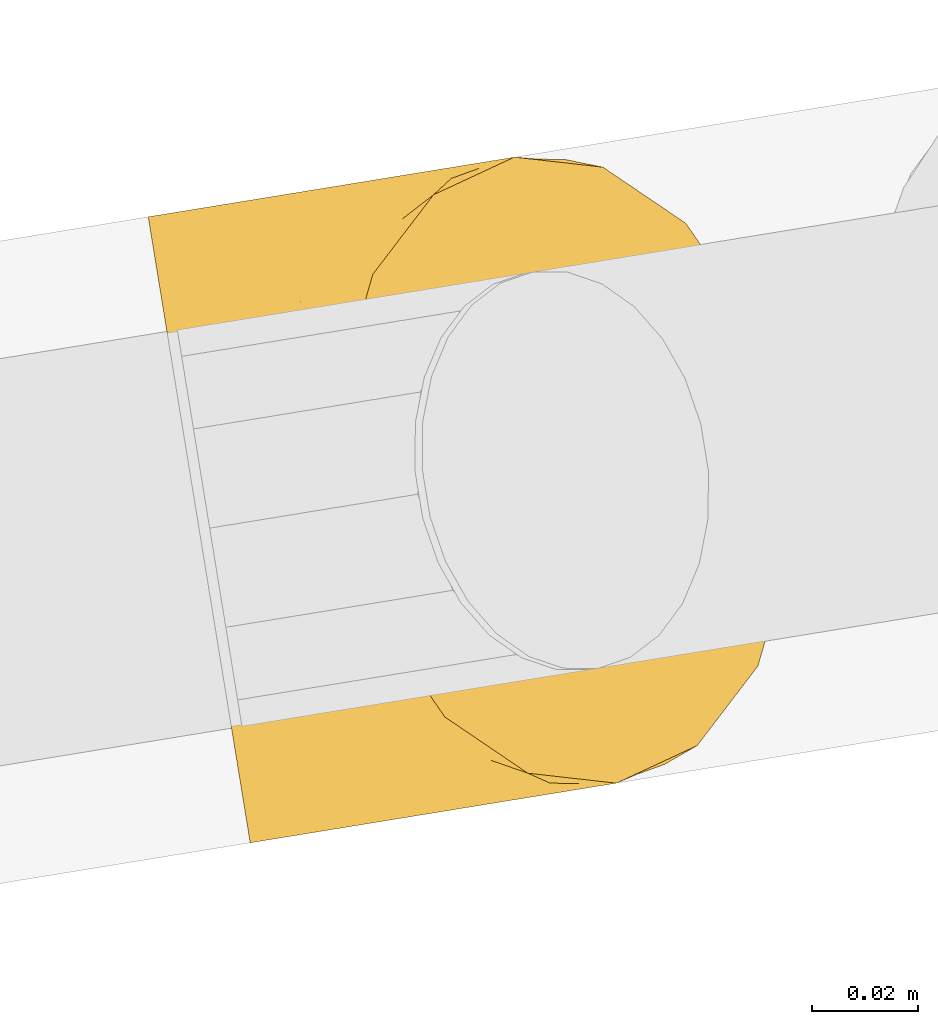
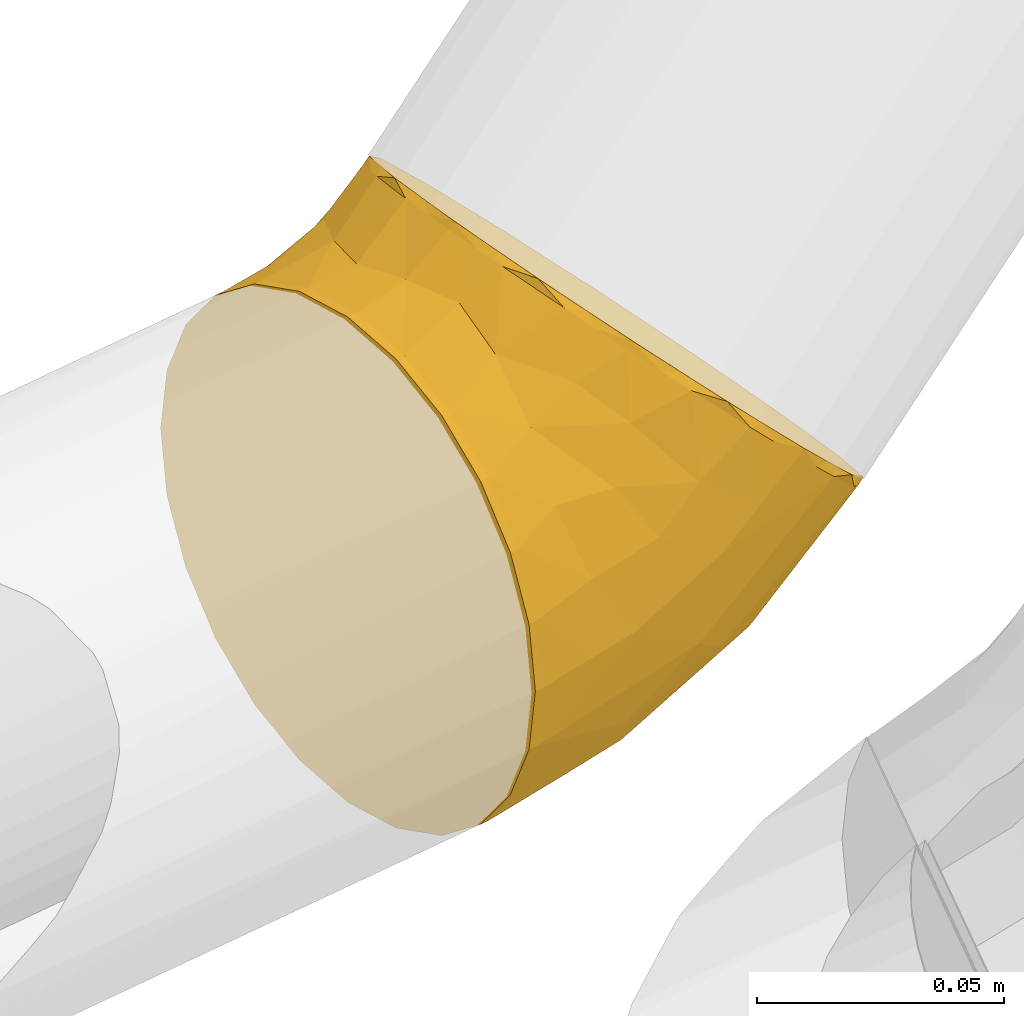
# One storey, part 11 of 56: 1 covering.
"""IFC2X3 building model written with IfcOpenShell, lengths in millimetres."""

from ifc_helpers import new_model, entity, si_unit, converted_unit, derived_unit, direction, frame, origin, origin_with_axes, place, context, subcontext, project, spatial, faceted_brep, material, type_object, element, save


model = new_model("IFC2X3")

# Units and contexts
model_context = context("Model", 3, precision=0.01, world=origin(), true_north=direction((6.12323399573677e-17, 1.0)))
plan_context = context("Plan", 3, precision=1e-05, world=origin_with_axes())
body_context = subcontext(model_context, "Body", "Model", "MODEL_VIEW")
ifc_project = project(units=[converted_unit("PLANEANGLEUNIT", "DEGREE", entity("IfcPositiveLengthMeasure", 0.0174532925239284), si_unit("PLANEANGLEUNIT", "RADIAN"), dimensions=[0, 0, 0, 0, 0, 0, 0]), si_unit("AREAUNIT", "SQUARE_METRE"), si_unit("LENGTHUNIT", "METRE", prefix="MILLI"), si_unit("MASSUNIT", "GRAM", prefix="KILO"), si_unit("POWERUNIT", "WATT"), si_unit("PRESSUREUNIT", "PASCAL", prefix="KILO"), si_unit("FORCEUNIT", "NEWTON", prefix="KILO"), si_unit("ELECTRICVOLTAGEUNIT", "VOLT"), si_unit("ELECTRICCURRENTUNIT", "AMPERE"), si_unit("THERMODYNAMICTEMPERATUREUNIT", "DEGREE_CELSIUS"), si_unit("TIMEUNIT", "SECOND"), si_unit("VOLUMEUNIT", "CUBIC_METRE"), derived_unit("LINEARVELOCITYUNIT", [(si_unit("LENGTHUNIT", "METRE"), 1), (si_unit("TIMEUNIT", "SECOND"), -1)]), derived_unit("VOLUMETRICFLOWRATEUNIT", [(si_unit("VOLUMEUNIT", "CUBIC_METRE"), 1), (si_unit("TIMEUNIT", "SECOND"), -1)]), derived_unit("THERMALTRANSMITTANCEUNIT", [(si_unit("POWERUNIT", "WATT"), 1), (si_unit("THERMODYNAMICTEMPERATUREUNIT", "KELVIN"), -1), (si_unit("AREAUNIT", "SQUARE_METRE"), -1)]), derived_unit("SOUNDPRESSUREUNIT", [(si_unit("PRESSUREUNIT", "PASCAL"), 1)])], contexts=[model_context, plan_context])

# Site, building, storey
site_placement = place(None, frame((-3.09682673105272e-06, 1.93776733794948e-05, 0.0), z_axis=(0.0, 0.0, 1.0), x_axis=(-0.160806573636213, 0.986985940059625, 0.0)))
site = spatial("IfcSite", under=ifc_project, at=site_placement, Name="Default", CompositionType="ELEMENT")
building_placement = place(site_placement, frame((0.0, 0.0, 0.0), z_axis=(0.0, 0.0, 1.0), x_axis=(1.0, -2.77555756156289e-17, 0.0)))
building = spatial("IfcBuilding", under=site, at=building_placement, Name="Bygning (endres i Project Information)", CompositionType="ELEMENT")
storey_placement = place(building_placement, frame((0.0, 0.0, 51360.0000000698), z_axis=(0.0, 0.0, 1.0), x_axis=(1.0, -2.77555756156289e-17, 0.0)))
storey = spatial("IfcBuildingStorey", under=building, at=storey_placement, Name="H01-Nivå D+0,36", CompositionType="ELEMENT", Elevation=51360.0000000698)

# Covering
ifc_material = material(Name="3700.001 Tur")
covering_type = type_object("IfcCoveringType", Name="Pipe Insulation:GLAVA avløpsisol. slange økende 19mm (15,5-25,0)", PredefinedType="INSULATION")
covering_placement = place(storey_placement, frame((1011826.7223707, -394773.965391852, 3513.15039411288), z_axis=(0.0, 0.0, 1.0), x_axis=(1.0, -2.77555756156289e-17, 0.0)))
element("IfcCovering", 1, at=covering_placement, inside=storey, type_object=covering_type, material=ifc_material, Name="Pipe Insulation:GLAVA avløpsisol. slange økende 19mm (15,5-25,0)", ObjectType="Pipe Insulation:GLAVA avløpsisol. slange økende 19mm (15,5-25,0)", PredefinedType="INSULATION", context=body_context, shape_type="Brep", body=[
    faceted_brep([(38.6651321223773, 83.2865874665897, -4.82748142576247), (28.9243210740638, 78.6843109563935, -9.42975793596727), (19.1835100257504, 74.0820344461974, -14.0320344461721), (12.6749081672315, 67.1942408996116, -20.9198279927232), (6.16630630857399, 60.3064473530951, -27.8076215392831), (3.88078927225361, 52.1817408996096, -35.9323279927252), (1.59527223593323, 44.0570344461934, -44.0570344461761), (3.88078927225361, 35.9323279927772, -52.1817408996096), (6.16630630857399, 27.8076215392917, -60.3064473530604), (12.6749081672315, 20.9198279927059, -67.1942408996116), (19.1835100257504, 14.0320344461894, -74.0820344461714), (28.9243210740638, 9.42975793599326, -78.6843109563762), (38.6651321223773, 4.82748142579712, -83.2865874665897), (50.15520217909, 3.21137683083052, -84.9026920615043), (61.6452722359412, 1.59527223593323, -86.5187966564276), (73.1353422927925, 3.21137683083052, -84.9026920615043), (84.6254123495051, 4.82748142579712, -83.2865874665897), (94.3662233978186, 9.42975793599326, -78.6843109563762), (104.107034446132, 14.0320344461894, -74.0820344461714), (110.615636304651, 20.9198279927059, -67.1942408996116), (117.124238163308, 27.8076215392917, -60.3064473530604), (119.409755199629, 35.9323279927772, -52.1817408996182), (121.695272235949, 44.0570344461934, -44.0570344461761), (119.409755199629, 52.1817408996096, -35.9323279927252), (117.124238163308, 60.3064473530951, -27.8076215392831), (110.615636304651, 67.1942408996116, -20.9198279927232), (104.107034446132, 74.0820344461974, -14.0320344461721), (94.3662233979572, 78.6843109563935, -9.42975793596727), (84.6254123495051, 83.2865874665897, -4.82748142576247), (73.1353422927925, 84.902692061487, -3.21137683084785), (61.6452722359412, 86.5187966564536, -1.5952722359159), (50.15520217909, 84.902692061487, -3.21137683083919), (84.4288140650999, 114.292838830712, -128.153992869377), (77.1873558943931, 114.292838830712, -131.153503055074), (70.0046048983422, 114.292838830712, -132.099130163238), (61.6452722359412, 114.292838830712, -133.199657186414), (53.8742304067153, 114.292838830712, -132.176580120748), (46.1031885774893, 114.292838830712, -131.153503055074), (38.8617304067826, 114.292838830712, -128.153992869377), (31.6202722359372, 114.292838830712, -125.154482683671), (25.4018911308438, 114.292838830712, -120.382951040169), (19.1835100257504, 114.292838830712, -115.611419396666), (14.4119783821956, 114.292838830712, -109.393038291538), (9.64044673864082, 114.292838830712, -103.174657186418), (6.64093655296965, 114.292838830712, -95.9331990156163), (3.64142636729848, 114.292838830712, -88.6917408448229), (2.69579925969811, 114.292838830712, -81.5089898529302), (1.59527223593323, 114.292838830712, -73.1496571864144), (2.61834930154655, 114.292838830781, -65.3786153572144), (3.64142636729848, 114.292838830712, -57.6075735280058), (6.64093655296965, 114.292838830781, -50.3661153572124), (9.64044673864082, 114.292838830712, -43.124657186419), (14.4119783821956, 114.292838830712, -36.9062760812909), (19.1835100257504, 114.292838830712, -30.6878949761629), (25.4018911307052, 114.292838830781, -25.9163633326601), (31.6202722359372, 114.292838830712, -21.1448316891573), (38.8617304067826, 114.292838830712, -18.1453215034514), (46.1031885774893, 114.292838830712, -15.1458113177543), (53.2859395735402, 114.292838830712, -14.2001842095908), (61.6452722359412, 114.292838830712, -13.099657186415), (69.4163140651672, 114.292838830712, -14.1227342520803), (77.1873558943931, 114.292838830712, -15.1458113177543), (84.4288140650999, 114.292838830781, -18.1453215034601), (91.6702722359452, 114.292838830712, -21.1448316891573), (97.8886533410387, 114.292838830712, -25.9163633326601), (104.107034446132, 114.292838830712, -30.6878949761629), (108.878566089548, 114.292838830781, -36.9062760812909), (113.650097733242, 114.292838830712, -43.1246571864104), (116.649607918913, 114.292838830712, -50.3661153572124), (119.649118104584, 114.292838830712, -57.6075735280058), (120.594745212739, 114.292838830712, -64.7903245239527), (121.695272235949, 114.292838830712, -73.1496571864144), (120.672195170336, 114.292838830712, -80.9206990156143), (119.649118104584, 114.292838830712, -88.6917408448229), (116.649607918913, 114.292838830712, -95.9331990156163), (113.650097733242, 114.292838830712, -103.174657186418), (108.878566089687, 114.292838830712, -109.393038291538), (104.107034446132, 114.292838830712, -115.611419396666), (97.8886533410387, 114.292838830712, -120.382951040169), (91.6702722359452, 114.292838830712, -125.154482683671), (46.1031885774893, 112.292838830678, -131.153503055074), (61.6452722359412, 112.292838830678, -133.199657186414), (53.2859395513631, 112.292838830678, -132.099130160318), (31.6202722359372, 112.292838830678, -125.154482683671), (38.8617304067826, 112.292838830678, -128.153992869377), (25.4018911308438, 112.292838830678, -120.382951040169), (19.1835100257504, 112.292838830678, -115.611419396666), (9.64044673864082, 112.292838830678, -103.174657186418), (14.4119783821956, 112.292838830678, -109.393038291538), (3.64142636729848, 112.292838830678, -88.6917408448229), (6.64093655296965, 112.292838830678, -95.9331990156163), (2.61834930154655, 112.292838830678, -80.9206990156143), (1.59527223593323, 112.292838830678, -73.1496571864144), (3.64142636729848, 112.292838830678, -57.6075735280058), (2.69579925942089, 112.292838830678, -64.790324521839), (9.64044673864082, 112.292838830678, -43.1246571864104), (6.64093655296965, 112.292838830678, -50.3661153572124), (14.4119783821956, 112.292838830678, -36.9062760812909), (19.1835100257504, 112.292838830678, -30.6878949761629), (31.6202722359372, 112.292838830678, -21.1448316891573), (25.4018911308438, 112.292838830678, -25.9163633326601), (46.1031885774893, 112.292838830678, -15.1458113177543), (38.8617304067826, 112.292838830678, -18.1453215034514), (53.8742304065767, 112.292838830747, -14.122734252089), (61.6452722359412, 112.292838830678, -13.099657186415), (77.1873558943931, 112.292838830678, -15.1458113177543), (70.0046048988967, 112.292838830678, -14.2001842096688), (91.6702722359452, 112.292838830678, -21.1448316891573), (84.4288140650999, 112.292838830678, -18.1453215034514), (97.8886533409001, 112.292838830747, -25.9163633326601), (104.107034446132, 112.292838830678, -30.6878949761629), (113.650097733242, 112.292838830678, -43.1246571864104), (108.878566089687, 112.292838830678, -36.9062760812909), (119.649118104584, 112.292838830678, -57.6075735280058), (116.649607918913, 112.292838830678, -50.3661153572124), (120.672195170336, 112.292838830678, -65.3786153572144), (121.695272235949, 112.292838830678, -73.1496571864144), (119.649118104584, 112.292838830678, -88.6917408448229), (120.594745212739, 112.292838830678, -81.5089898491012), (113.650097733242, 112.292838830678, -103.174657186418), (116.649607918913, 112.292838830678, -95.9331990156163), (108.878566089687, 112.292838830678, -109.393038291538), (104.107034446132, 112.292838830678, -115.611419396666), (91.6702722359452, 112.292838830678, -125.154482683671), (97.8886533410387, 112.292838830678, -120.382951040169), (77.1873558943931, 112.292838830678, -131.153503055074), (84.4288140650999, 112.292838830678, -128.153992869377), (69.4163140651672, 112.292838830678, -132.176580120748), (50.664647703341, 85.5475609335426, -129.839799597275), (39.5950181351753, 76.4597781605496, -124.672390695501), (61.6452722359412, 72.2923554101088, -127.933493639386), (25.9108698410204, 87.1245465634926, -119.173874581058), (26.9386521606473, 57.3759997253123, -111.230641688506), (25.9108693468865, 30.7238840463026, -95.8119553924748), (31.6202722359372, 8.69828324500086, -82.2442127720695), (25.4018911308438, 12.0722656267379, -78.8702303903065), (19.1835100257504, 15.4462480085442, -75.4962480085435), (61.6452722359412, 35.0178388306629, -112.493883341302), (50.6646483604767, 24.2970327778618, -104.469000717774), (49.9807930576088, 53.5868241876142, -120.37852270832), (1.59527223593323, 65.0428388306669, -60.4890578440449), (4.46183562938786, 69.1139559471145, -82.8927031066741), (3.64142636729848, 34.4813352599, -56.4611607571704), (1.59527223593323, 87.8344390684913, -69.9296477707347), (1.59527223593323, 99.4313806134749, -71.4564140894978), (15.0655051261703, 80.7941069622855, -107.247101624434), (8.00076731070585, 85.2729382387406, -97.0932618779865), (9.04079400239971, 59.6499882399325, -90.3254583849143), (9.64044673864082, 24.2403669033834, -66.7021291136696), (6.64093655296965, 29.3608510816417, -61.58164493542), (46.1031885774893, 4.45633525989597, -86.4861607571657), (39.5950159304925, 34.3769800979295, -107.241125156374), (15.2098345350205, 47.1520218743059, -94.1181301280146), (14.4119783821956, 19.8433074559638, -71.0991885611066), (61.6452722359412, 3.00948579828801, -87.933010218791), (53.8742304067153, 3.73291052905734, -87.209585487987), (1.59527223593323, 55.762976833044, -53.3683692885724), (2.61834930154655, 39.9762916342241, -50.9662043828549), (1.59527223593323, 45.4712480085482, -45.4712480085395), (1.59527223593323, 76.4386389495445, -65.2093528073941), (38.8617304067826, 6.57730925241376, -84.3651867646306), (3.54813655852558, 80.2897842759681, -51.2164323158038), (4.16459638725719, 97.4249525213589, -54.3255432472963), (11.7283730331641, 100.885054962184, -38.6943743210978), (13.156433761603, 79.9940329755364, -28.1148182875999), (22.1682347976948, 98.6848226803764, -25.9823157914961), (9.27971318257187, 87.3768363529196, -38.8022194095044), (4.16459674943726, 69.2950936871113, -42.6737737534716), (35.8329738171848, 96.8780673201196, -15.8642126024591), (61.6452722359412, 99.109394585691, -10.4773070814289), (22.6361433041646, 86.7574756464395, -20.2894712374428), (3.64142636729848, 56.4611607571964, -34.4813352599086), (6.64093655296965, 61.5816449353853, -29.3608510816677), (9.64044673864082, 66.7021291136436, -24.2403669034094), (31.6202722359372, 82.2442127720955, -8.69828324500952), (48.4139431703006, 95.9077321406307, -10.6214088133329), (61.6452722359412, 87.9330102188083, -3.00948579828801), (38.8617304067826, 84.3651867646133, -6.57730925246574), (46.1031885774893, 86.4861607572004, -4.45633525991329), (53.8742304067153, 87.2095854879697, -3.73291052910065), (19.1835100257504, 75.4962480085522, -15.4462480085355), (25.4018911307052, 78.8702303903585, -12.0722656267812), (14.4119783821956, 71.0991885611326, -19.8433074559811), (2.61834930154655, 50.966204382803, -39.9762916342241), (100.654400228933, 100.905278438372, -26.1496811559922), (87.4575706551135, 96.8780673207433, -15.8642126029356), (101.122308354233, 88.4459215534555, -21.7412236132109), (91.6702722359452, 82.2442127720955, -8.69828324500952), (97.8886533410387, 78.8702303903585, -12.0722656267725), (104.107034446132, 75.4962480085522, -15.4462480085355), (74.8766016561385, 101.271417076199, -12.8431198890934), (119.74240796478, 83.609961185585, -52.59169472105), (121.695272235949, 87.8344390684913, -69.9296477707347), (119.125948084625, 97.4249525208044, -54.3255432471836), (110.134108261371, 100.154400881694, -36.4655109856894), (121.695272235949, 99.4313806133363, -71.4564140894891), (114.01083159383, 87.376834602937, -38.8022192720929), (121.695272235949, 55.7629768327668, -53.3683692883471), (119.649118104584, 56.4611607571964, -34.4813352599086), (120.672195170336, 50.966204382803, -39.9762916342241), (121.695272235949, 45.4712480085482, -45.4712480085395), (111.562170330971, 77.9013394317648, -29.1742072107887), (119.125947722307, 69.2950936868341, -42.6737737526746), (69.4163140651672, 87.2095854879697, -3.73291052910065), (77.1873558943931, 86.4861607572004, -4.45633525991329), (113.650097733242, 66.7021291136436, -24.2403669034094), (116.649607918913, 61.5816449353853, -29.3608510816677), (84.4288140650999, 84.3651867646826, -6.57730925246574), (108.878566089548, 71.0991885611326, -19.8433074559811), (121.695272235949, 65.0428388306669, -60.4890578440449), (121.695272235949, 76.4386389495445, -65.2093528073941), (118.828708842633, 69.1139559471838, -82.8927031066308), (83.6955263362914, 76.4597781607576, -124.672390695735), (97.3796746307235, 87.124546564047, -119.173874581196), (96.3518923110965, 57.3759997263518, -111.230641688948), (83.6955285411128, 34.3769801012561, -107.241125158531), (91.6702722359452, 8.69828324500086, -82.2442127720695), (84.4288140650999, 6.57730925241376, -84.3651867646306), (77.1873558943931, 4.45633525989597, -86.4861607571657), (108.080710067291, 76.7058127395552, -106.35971085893), (72.6258967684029, 85.547560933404, -129.839799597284), (73.3097514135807, 53.586824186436, -120.378522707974), (108.225039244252, 43.6336813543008, -91.8547496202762), (97.3796751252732, 30.7238840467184, -95.8119553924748), (119.649118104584, 34.4813352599, -56.4611607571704), (120.672195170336, 39.9762916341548, -50.9662043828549), (114.249750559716, 70.550239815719, -94.8404902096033), (72.6258961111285, 24.297032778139, -104.469000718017), (104.107034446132, 15.4462480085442, -75.4962480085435), (113.650097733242, 24.2403669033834, -66.7021291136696), (108.878566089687, 19.8433074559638, -71.0991885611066), (97.8886533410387, 12.0722656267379, -78.8702303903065), (115.289777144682, 47.6465184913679, -81.5078887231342), (116.649607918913, 29.3608510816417, -61.58164493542), (69.4163140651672, 3.73291052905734, -87.209585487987)], [[[0, 1, 2, 3, 4, 5, 6, 7, 8, 9, 10, 11, 12, 13, 14, 15, 16, 17, 18, 19, 20, 21, 22, 23, 24, 25, 26, 27, 28, 29, 30, 31]], [[32, 33, 34, 35, 36, 37, 38, 39, 40, 41, 42, 43, 44, 45, 46, 47, 48, 49, 50, 51, 52, 53, 54, 55, 56, 57, 58, 59, 60, 61, 62, 63, 64, 65, 66, 67, 68, 69, 70, 71, 72, 73, 74, 75, 76, 77, 78, 79]], [[80, 37, 36, 35, 81, 82]], [[83, 39, 38, 37, 80, 84]], [[40, 39, 83, 85, 86, 41]], [[87, 43, 42, 41, 86, 88]], [[89, 45, 44, 43, 87, 90]], [[46, 45, 89, 91, 92, 47]], [[93, 49, 48, 47, 92, 94]], [[95, 51, 50, 49, 93, 96]], [[52, 51, 95, 97, 98, 53]], [[99, 55, 54, 53, 98, 100]], [[101, 57, 56, 55, 99, 102]], [[58, 57, 101, 103, 104, 59]], [[105, 61, 60, 59, 104, 106]], [[107, 63, 62, 61, 105, 108]], [[64, 63, 107, 109, 110, 65]], [[111, 67, 66, 65, 110, 112]], [[113, 69, 68, 67, 111, 114]], [[70, 69, 113, 115, 116, 71]], [[117, 73, 72, 71, 116, 118]], [[119, 75, 74, 73, 117, 120]], [[76, 75, 119, 121, 122, 77]], [[123, 79, 78, 77, 122, 124]], [[125, 33, 32, 79, 123, 126]], [[34, 33, 125, 127, 81, 35]], [[80, 128, 129]], [[81, 130, 128]], [[131, 86, 85, 83]], [[129, 132, 131]], [[133, 134, 135, 136]], [[137, 138, 139]], [[139, 130, 137]], [[140, 141, 142]], [[89, 143, 144, 92, 91]], [[143, 89, 141]], [[129, 83, 84, 80]], [[145, 146, 87]], [[145, 87, 88, 86]], [[147, 148, 149, 142]], [[150, 151, 138]], [[132, 129, 151]], [[152, 136, 153, 148]], [[134, 133, 151]], [[151, 129, 139]], [[138, 154, 155, 150]], [[132, 152, 145]], [[151, 133, 132]], [[146, 89, 90, 87]], [[156, 140, 142, 157, 158]], [[141, 140, 159, 143]], [[142, 141, 147]], [[145, 131, 132]], [[129, 131, 83]], [[133, 152, 132]], [[146, 147, 141]], [[152, 133, 136]], [[151, 150, 160, 134]], [[128, 139, 129]], [[145, 86, 131]], [[147, 145, 152]], [[89, 146, 141]], [[145, 147, 146]], [[148, 147, 152]], [[128, 80, 82, 81]], [[139, 128, 130]], [[139, 138, 151]], [[154, 138, 137]], [[143, 161, 162]], [[143, 162, 144]], [[163, 98, 97, 95]], [[144, 162, 93]], [[164, 165, 166]], [[161, 167, 166]], [[165, 99, 100, 98]], [[165, 168, 99]], [[162, 95, 96, 93]], [[169, 104, 103, 101]], [[168, 101, 102, 99]], [[163, 165, 98]], [[161, 143, 159, 140]], [[167, 164, 166]], [[168, 165, 170]], [[167, 171, 172, 173]], [[163, 162, 166]], [[167, 156, 171]], [[164, 167, 173]], [[168, 170, 174]], [[161, 140, 167]], [[169, 175, 176]], [[168, 174, 177, 178]], [[101, 168, 175]], [[178, 175, 168]], [[175, 178, 179, 176]], [[170, 180, 181, 174]], [[164, 170, 165]], [[162, 163, 95]], [[180, 170, 164]], [[165, 163, 166]], [[164, 173, 182, 180]], [[144, 93, 94, 92]], [[156, 167, 140]], [[156, 158, 183, 171]], [[101, 175, 169]], [[162, 161, 166]], [[184, 185, 186]], [[186, 187, 188, 189]], [[105, 190, 185]], [[191, 192, 193]], [[194, 184, 186]], [[184, 110, 109, 107]], [[193, 195, 113]], [[194, 186, 196]], [[193, 113, 114, 111]], [[197, 198, 199, 200]], [[191, 193, 196]], [[201, 202, 196]], [[104, 169, 190]], [[186, 201, 196]], [[169, 176, 203, 204]], [[185, 184, 107]], [[185, 107, 108, 105]], [[202, 205, 206, 198]], [[185, 204, 207, 187]], [[187, 186, 185]], [[184, 194, 110]], [[201, 189, 208, 205]], [[201, 186, 189]], [[191, 202, 209]], [[209, 202, 197]], [[202, 198, 197]], [[209, 210, 192, 191]], [[194, 193, 111]], [[194, 111, 112, 110]], [[204, 185, 190]], [[202, 201, 205]], [[193, 194, 196]], [[195, 193, 192]], [[195, 116, 115, 113]], [[190, 105, 106, 104]], [[204, 190, 169]], [[202, 191, 196]], [[117, 192, 211]], [[212, 213, 214]], [[195, 192, 117, 118, 116]], [[215, 216, 217, 218]], [[219, 213, 122]], [[213, 219, 214]], [[220, 81, 127, 125]], [[212, 215, 221]], [[212, 125, 126, 123]], [[222, 223, 214]], [[213, 123, 124, 122]], [[123, 213, 212]], [[220, 221, 130]], [[219, 122, 121, 119]], [[211, 192, 210, 209]], [[215, 223, 216]], [[224, 209, 197, 200, 225]], [[117, 211, 226]], [[219, 222, 214]], [[215, 227, 221]], [[222, 228, 223]], [[222, 229, 230, 228]], [[212, 220, 125]], [[223, 228, 231, 216]], [[154, 137, 227]], [[218, 227, 215]], [[222, 232, 229]], [[223, 215, 214]], [[221, 137, 130]], [[232, 224, 233, 229]], [[214, 215, 212]], [[224, 211, 209]], [[232, 226, 211]], [[226, 119, 120, 117]], [[226, 222, 219]], [[224, 232, 211]], [[222, 226, 232]], [[119, 226, 219]], [[227, 218, 234, 154]], [[221, 227, 137]], [[221, 220, 212]], [[81, 220, 130]], [[155, 154, 14]], [[157, 142, 7]], [[157, 6, 158]], [[12, 11, 134]], [[12, 134, 160, 150]], [[12, 150, 13]], [[10, 135, 11]], [[14, 13, 155]], [[135, 10, 136]], [[13, 150, 155]], [[6, 157, 7]], [[8, 142, 149, 148]], [[153, 9, 148]], [[153, 10, 9]], [[8, 148, 9]], [[10, 153, 136]], [[135, 134, 11]], [[8, 7, 142]], [[183, 158, 6]], [[179, 178, 31]], [[179, 30, 176]], [[4, 3, 173]], [[4, 173, 172, 171]], [[4, 171, 5]], [[2, 182, 3]], [[6, 5, 183]], [[182, 2, 180]], [[5, 171, 183]], [[30, 179, 31]], [[0, 178, 177, 174]], [[181, 1, 174]], [[181, 2, 1]], [[0, 174, 1]], [[2, 181, 180]], [[182, 173, 3]], [[0, 31, 178]], [[203, 176, 30]], [[199, 198, 23]], [[199, 22, 200]], [[28, 27, 187]], [[28, 187, 207, 204]], [[28, 204, 29]], [[26, 188, 27]], [[30, 29, 203]], [[188, 26, 189]], [[29, 204, 203]], [[22, 199, 23]], [[24, 198, 206, 205]], [[208, 25, 205]], [[208, 26, 25]], [[24, 205, 25]], [[26, 208, 189]], [[188, 187, 27]], [[24, 23, 198]], [[225, 200, 22]], [[234, 218, 15]], [[234, 14, 154]], [[20, 19, 229]], [[20, 229, 233, 224]], [[20, 224, 21]], [[18, 230, 19]], [[22, 21, 225]], [[230, 18, 228]], [[21, 224, 225]], [[14, 234, 15]], [[16, 218, 217, 216]], [[231, 17, 216]], [[231, 18, 17]], [[16, 216, 17]], [[18, 231, 228]], [[230, 229, 19]], [[16, 15, 218]]]),
])

save(model, "model.ifc")
